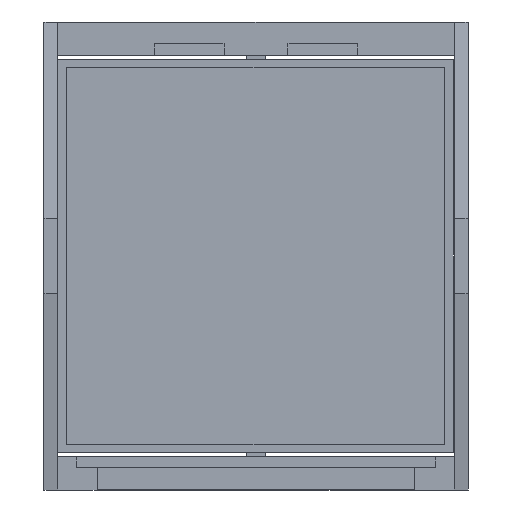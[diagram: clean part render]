
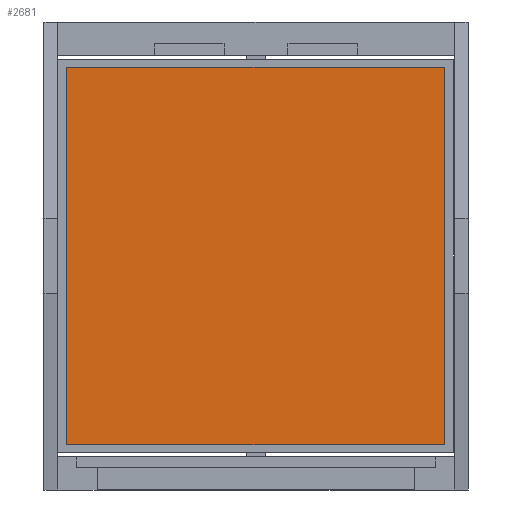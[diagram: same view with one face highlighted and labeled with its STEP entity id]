
A CAD part, front view. The second image highlights one B-rep face of the part: STEP entity #2681.
In plain terms, the highlighted planar face has unit normal (0, -1, 0).
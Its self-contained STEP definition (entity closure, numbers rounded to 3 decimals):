
#45 = LINE ( 'NONE', #6524, #5335 ) ;
#147 = CARTESIAN_POINT ( 'NONE',  ( 24.524, -2.324, -20.423 ) ) ;
#330 = DIRECTION ( 'NONE',  ( -1., 0., 0. ) ) ;
#474 = ORIENTED_EDGE ( 'NONE', *, *, #5520, .F. ) ;
#1053 = LINE ( 'NONE', #4013, #4059 ) ;
#1165 = DIRECTION ( 'NONE',  ( 1., 0., 0. ) ) ;
#1224 = ORIENTED_EDGE ( 'NONE', *, *, #7457, .F. ) ;
#1266 = ORIENTED_EDGE ( 'NONE', *, *, #4202, .F. ) ;
#1268 = VECTOR ( 'NONE', #1165, 1000. ) ;
#1352 = PLANE ( 'NONE',  #4558 ) ;
#1874 = VERTEX_POINT ( 'NONE', #2707 ) ;
#2681 = ADVANCED_FACE ( 'NONE', ( #8815 ), #1352, .F. ) ;
#2707 = CARTESIAN_POINT ( 'NONE',  ( -13.476, -2.324, 17.577 ) ) ;
#2871 = DIRECTION ( 'NONE',  ( 0., 0., 1. ) ) ;
#2956 = VERTEX_POINT ( 'NONE', #7464 ) ;
#3048 = VERTEX_POINT ( 'NONE', #147 ) ;
#3731 = DIRECTION ( 'NONE',  ( 0., 0., 1. ) ) ;
#3990 = EDGE_LOOP ( 'NONE', ( #7796, #474, #1266, #1224 ) ) ;
#4013 = CARTESIAN_POINT ( 'NONE',  ( -13.476, -2.324, -20.423 ) ) ;
#4059 = VECTOR ( 'NONE', #330, 1000. ) ;
#4202 = EDGE_CURVE ( 'NONE', #9529, #3048, #9037, .T. ) ;
#4558 = AXIS2_PLACEMENT_3D ( 'NONE', #8107, #8873, #2871 ) ;
#4756 = LINE ( 'NONE', #6964, #1268 ) ;
#5266 = CARTESIAN_POINT ( 'NONE',  ( 24.524, -2.324, -20.423 ) ) ;
#5335 = VECTOR ( 'NONE', #3731, 1000. ) ;
#5520 = EDGE_CURVE ( 'NONE', #3048, #2956, #1053, .T. ) ;
#6423 = VECTOR ( 'NONE', #8240, 1000. ) ;
#6524 = CARTESIAN_POINT ( 'NONE',  ( -13.476, -2.324, -20.423 ) ) ;
#6964 = CARTESIAN_POINT ( 'NONE',  ( -13.476, -2.324, 17.577 ) ) ;
#7200 = CARTESIAN_POINT ( 'NONE',  ( 24.524, -2.324, 17.577 ) ) ;
#7457 = EDGE_CURVE ( 'NONE', #1874, #9529, #4756, .T. ) ;
#7464 = CARTESIAN_POINT ( 'NONE',  ( -13.476, -2.324, -20.423 ) ) ;
#7796 = ORIENTED_EDGE ( 'NONE', *, *, #7910, .F. ) ;
#7910 = EDGE_CURVE ( 'NONE', #2956, #1874, #45, .T. ) ;
#8107 = CARTESIAN_POINT ( 'NONE',  ( -13.476, -2.324, 17.577 ) ) ;
#8240 = DIRECTION ( 'NONE',  ( 0., 0., -1. ) ) ;
#8815 = FACE_OUTER_BOUND ( 'NONE', #3990, .T. ) ;
#8873 = DIRECTION ( 'NONE',  ( 0., 1., 0. ) ) ;
#9037 = LINE ( 'NONE', #5266, #6423 ) ;
#9529 = VERTEX_POINT ( 'NONE', #7200 ) ;
